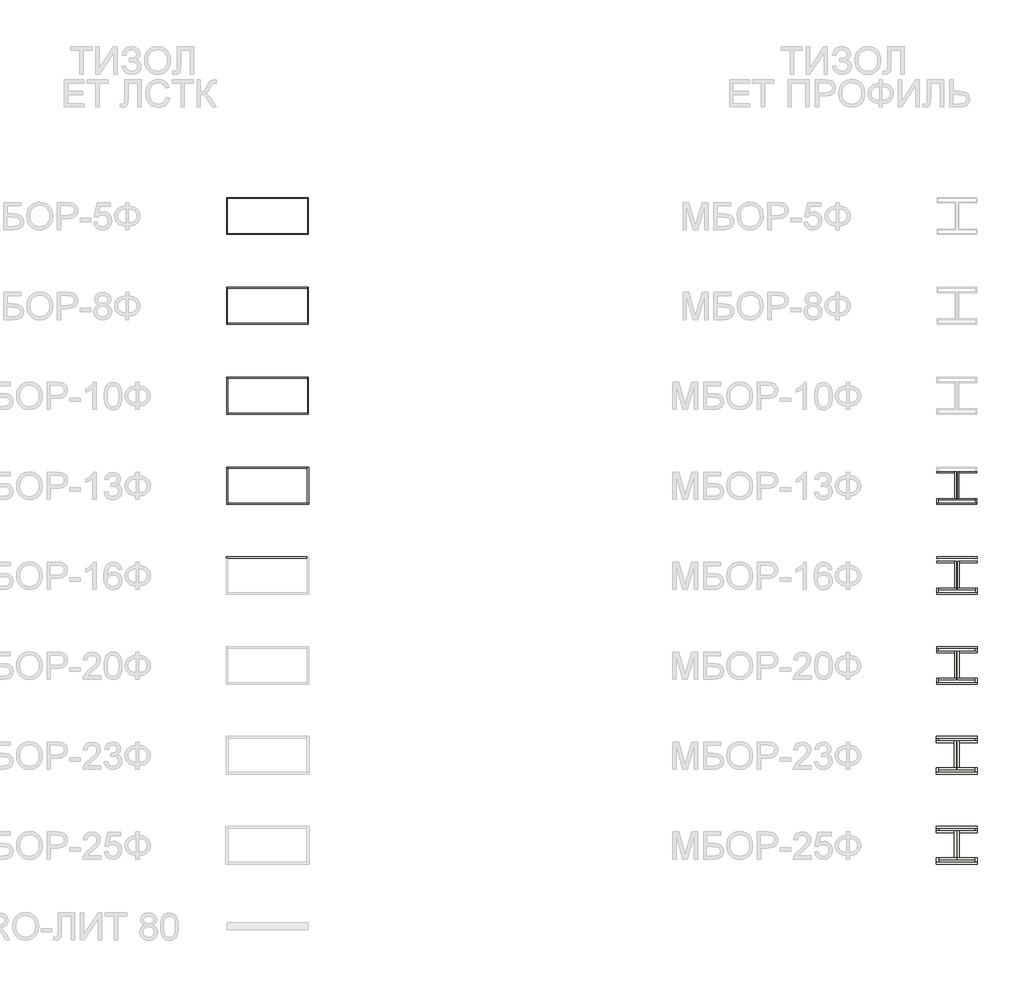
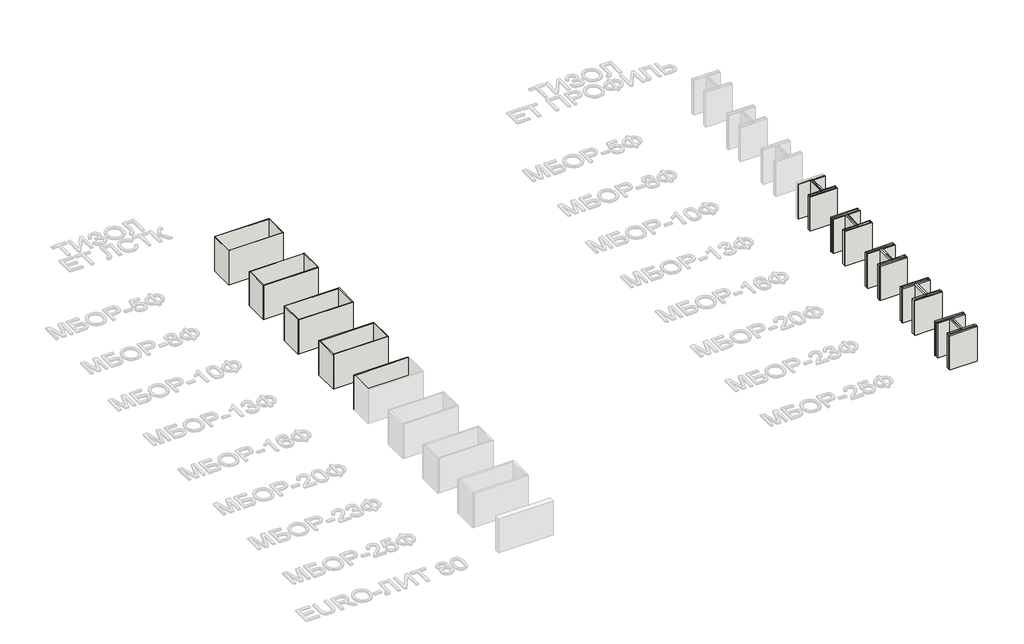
# One storey, part 2 of 35: 72 walls.
"""IFC4 building model written with IfcOpenShell, lengths in millimetres."""

from ifc_helpers import new_model, si_unit, origin, origin_with_axes, place, context, project, spatial, polyline, outline, extrude, faceted_brep, element, save

model = new_model("IFC4")

# Units and contexts
model_context = context("Model", 3, world=origin())
ifc_project = project(units=[si_unit("LENGTHUNIT", "METRE", prefix="MILLI")], contexts=[model_context])

# Site, building, storey
site = spatial("IfcSite", under=ifc_project)
building = spatial("IfcBuilding", under=site)
storey = spatial("IfcBuildingStorey", under=building, Name="Этаж 01", Elevation=0.0)

# Walls
placement = place(None, origin())
element("IfcWall", 1, ObjectType="Тизол МБОР-5Ф", at=placement, inside=storey, context=model_context, shape_type="Brep", body=[
    faceted_brep([(10548.3215627, -48960.0493767, 0.0), (10553.3215627, -48960.0493767, 0.0), (11448.3215627, -48960.0493767, 0.0), (11448.3215627, -48960.0493767, 600.0), (10553.3215627, -48960.0493767, 600.0), (10548.3215627, -48960.0493767, 600.0), (10548.3215627, -48955.0493767, 0.0), (10548.3215627, -48955.0493767, 600.0), (11448.3215627, -48955.0493767, 600.0), (11448.3215627, -48955.0493767, 0.0)], [[[0, 1, 2, 3, 4, 5]], [[6, 7, 8, 9]], [[2, 1, 0, 6, 9]], [[5, 4, 3, 8, 7]], [[0, 5, 7, 6]], [[3, 2, 9, 8]]]),
])
element("IfcWall", 2, ObjectType="Тизол МБОР-5Ф", at=placement, inside=storey, context=model_context, shape_type="Brep", body=[
    faceted_brep([(10553.3215627, -49360.0493767, 0.0), (10553.3215627, -49355.0493767, 0.0), (10553.3215627, -48960.0493767, 0.0), (10553.3215627, -48960.0493767, 600.0), (10553.3215627, -49355.0493767, 600.0), (10553.3215627, -49360.0493767, 600.0), (10548.3215627, -49360.0493767, 0.0), (10548.3215627, -49360.0493767, 600.0), (10548.3215627, -48960.0493767, 600.0), (10548.3215627, -48960.0493767, 0.0)], [[[0, 1, 2, 3, 4, 5]], [[6, 7, 8, 9]], [[2, 1, 0, 6, 9]], [[5, 4, 3, 8, 7]], [[0, 5, 7, 6]], [[3, 2, 9, 8]]]),
])
element("IfcWall", 3, ObjectType="Тизол МБОР-5Ф", at=placement, inside=storey, context=model_context, shape_type="Brep", body=[
    faceted_brep([(11453.3215627, -49355.0493767, 0.0), (11448.3215627, -49355.0493767, 0.0), (10553.3215627, -49355.0493767, 0.0), (10553.3215627, -49355.0493767, 600.0), (11448.3215627, -49355.0493767, 600.0), (11453.3215627, -49355.0493767, 600.0), (11453.3215627, -49360.0493767, 0.0), (11453.3215627, -49360.0493767, 600.0), (10553.3215627, -49360.0493767, 600.0), (10553.3215627, -49360.0493767, 0.0)], [[[0, 1, 2, 3, 4, 5]], [[6, 7, 8, 9]], [[2, 1, 0, 6, 9]], [[5, 4, 3, 8, 7]], [[0, 5, 7, 6]], [[3, 2, 9, 8]]]),
])
element("IfcWall", 4, ObjectType="Тизол МБОР-5Ф", at=placement, inside=storey, context=model_context, shape_type="Brep", body=[
    faceted_brep([(11448.3215627, -48955.0493767, 0.0), (11448.3215627, -48960.0493767, 0.0), (11448.3215627, -49355.0493767, 0.0), (11448.3215627, -49355.0493767, 600.0), (11448.3215627, -48960.0493767, 600.0), (11448.3215627, -48955.0493767, 600.0), (11453.3215627, -48955.0493767, 0.0), (11453.3215627, -48955.0493767, 600.0), (11453.3215627, -49355.0493767, 600.0), (11453.3215627, -49355.0493767, 0.0)], [[[0, 1, 2, 3, 4, 5]], [[6, 7, 8, 9]], [[2, 1, 0, 6, 9]], [[5, 4, 3, 8, 7]], [[0, 5, 7, 6]], [[3, 2, 9, 8]]]),
])
element("IfcWall", 5, ObjectType="Тизол МБОР-8Ф", at=placement, inside=storey, context=model_context, shape_type="Brep", body=[
    faceted_brep([(10546.8215627, -49961.5493767, 0.0), (10554.8215627, -49961.5493767, 0.0), (11446.8215627, -49961.5493767, 0.0), (11446.8215627, -49961.5493767, 600.0), (10554.8215627, -49961.5493767, 600.0), (10546.8215627, -49961.5493767, 600.0), (10546.8215627, -49953.5493767, 0.0), (10546.8215627, -49953.5493767, 600.0), (11446.8215627, -49953.5493767, 600.0), (11446.8215627, -49953.5493767, 0.0)], [[[0, 1, 2, 3, 4, 5]], [[6, 7, 8, 9]], [[2, 1, 0, 6, 9]], [[5, 4, 3, 8, 7]], [[0, 5, 7, 6]], [[3, 2, 9, 8]]]),
])
element("IfcWall", 6, ObjectType="Тизол МБОР-8Ф", at=placement, inside=storey, context=model_context, shape_type="Brep", body=[
    faceted_brep([(10554.8215627, -50361.5493767, 0.0), (10554.8215627, -50353.5493767, 0.0), (10554.8215627, -49961.5493767, 0.0), (10554.8215627, -49961.5493767, 600.0), (10554.8215627, -50353.5493767, 600.0), (10554.8215627, -50361.5493767, 600.0), (10546.8215627, -50361.5493767, 0.0), (10546.8215627, -50361.5493767, 600.0), (10546.8215627, -49961.5493767, 600.0), (10546.8215627, -49961.5493767, 0.0)], [[[0, 1, 2, 3, 4, 5]], [[6, 7, 8, 9]], [[2, 1, 0, 6, 9]], [[5, 4, 3, 8, 7]], [[0, 5, 7, 6]], [[3, 2, 9, 8]]]),
])
element("IfcWall", 7, ObjectType="Тизол МБОР-8Ф", at=placement, inside=storey, context=model_context, shape_type="Brep", body=[
    faceted_brep([(11454.8215627, -50353.5493767, 0.0), (11446.8215627, -50353.5493767, 0.0), (10554.8215627, -50353.5493767, 0.0), (10554.8215627, -50353.5493767, 600.0), (11446.8215627, -50353.5493767, 600.0), (11454.8215627, -50353.5493767, 600.0), (11454.8215627, -50361.5493767, 0.0), (11454.8215627, -50361.5493767, 600.0), (10554.8215627, -50361.5493767, 600.0), (10554.8215627, -50361.5493767, 0.0)], [[[0, 1, 2, 3, 4, 5]], [[6, 7, 8, 9]], [[2, 1, 0, 6, 9]], [[5, 4, 3, 8, 7]], [[0, 5, 7, 6]], [[3, 2, 9, 8]]]),
])
element("IfcWall", 8, ObjectType="Тизол МБОР-8Ф", at=placement, inside=storey, context=model_context, shape_type="Brep", body=[
    faceted_brep([(11446.8215627, -49953.5493767, 0.0), (11446.8215627, -49961.5493767, 0.0), (11446.8215627, -50353.5493767, 0.0), (11446.8215627, -50353.5493767, 600.0), (11446.8215627, -49961.5493767, 600.0), (11446.8215627, -49953.5493767, 600.0), (11454.8215627, -49953.5493767, 0.0), (11454.8215627, -49953.5493767, 600.0), (11454.8215627, -50353.5493767, 600.0), (11454.8215627, -50353.5493767, 0.0)], [[[0, 1, 2, 3, 4, 5]], [[6, 7, 8, 9]], [[2, 1, 0, 6, 9]], [[5, 4, 3, 8, 7]], [[0, 5, 7, 6]], [[3, 2, 9, 8]]]),
])
element("IfcWall", 9, ObjectType="Тизол МБОР-10Ф", at=placement, inside=storey, context=model_context, shape_type="Brep", body=[
    faceted_brep([(10545.8215627, -50962.5493767, 0.0), (10555.8215627, -50962.5493767, 0.0), (11445.8215627, -50962.5493767, 0.0), (11445.8215627, -50962.5493767, 600.0), (10555.8215627, -50962.5493767, 600.0), (10545.8215627, -50962.5493767, 600.0), (10545.8215627, -50952.5493767, 0.0), (10545.8215627, -50952.5493767, 600.0), (11445.8215627, -50952.5493767, 600.0), (11445.8215627, -50952.5493767, 0.0)], [[[0, 1, 2, 3, 4, 5]], [[6, 7, 8, 9]], [[2, 1, 0, 6, 9]], [[5, 4, 3, 8, 7]], [[0, 5, 7, 6]], [[3, 2, 9, 8]]]),
])
element("IfcWall", 10, ObjectType="Тизол МБОР-10Ф", at=placement, inside=storey, context=model_context, shape_type="Brep", body=[
    faceted_brep([(10555.8215627, -51362.5493767, 0.0), (10555.8215627, -51352.5493767, 0.0), (10555.8215627, -50962.5493767, 0.0), (10555.8215627, -50962.5493767, 600.0), (10555.8215627, -51352.5493767, 600.0), (10555.8215627, -51362.5493767, 600.0), (10545.8215627, -51362.5493767, 0.0), (10545.8215627, -51362.5493767, 600.0), (10545.8215627, -50962.5493767, 600.0), (10545.8215627, -50962.5493767, 0.0)], [[[0, 1, 2, 3, 4, 5]], [[6, 7, 8, 9]], [[2, 1, 0, 6, 9]], [[5, 4, 3, 8, 7]], [[0, 5, 7, 6]], [[3, 2, 9, 8]]]),
])
element("IfcWall", 11, ObjectType="Тизол МБОР-10Ф", at=placement, inside=storey, context=model_context, shape_type="Brep", body=[
    faceted_brep([(11455.8215627, -51352.5493767, 0.0), (11445.8215627, -51352.5493767, 0.0), (10555.8215627, -51352.5493767, 0.0), (10555.8215627, -51352.5493767, 600.0), (11445.8215627, -51352.5493767, 600.0), (11455.8215627, -51352.5493767, 600.0), (11455.8215627, -51362.5493767, 0.0), (11455.8215627, -51362.5493767, 600.0), (10555.8215627, -51362.5493767, 600.0), (10555.8215627, -51362.5493767, 0.0)], [[[0, 1, 2, 3, 4, 5]], [[6, 7, 8, 9]], [[2, 1, 0, 6, 9]], [[5, 4, 3, 8, 7]], [[0, 5, 7, 6]], [[3, 2, 9, 8]]]),
])
element("IfcWall", 12, ObjectType="Тизол МБОР-10Ф", at=placement, inside=storey, context=model_context, shape_type="Brep", body=[
    faceted_brep([(11445.8215627, -50952.5493767, 0.0), (11445.8215627, -50962.5493767, 0.0), (11445.8215627, -51352.5493767, 0.0), (11445.8215627, -51352.5493767, 600.0), (11445.8215627, -50962.5493767, 600.0), (11445.8215627, -50952.5493767, 600.0), (11455.8215627, -50952.5493767, 0.0), (11455.8215627, -50952.5493767, 600.0), (11455.8215627, -51352.5493767, 600.0), (11455.8215627, -51352.5493767, 0.0)], [[[0, 1, 2, 3, 4, 5]], [[6, 7, 8, 9]], [[2, 1, 0, 6, 9]], [[5, 4, 3, 8, 7]], [[0, 5, 7, 6]], [[3, 2, 9, 8]]]),
])
element("IfcWall", 13, ObjectType="Тизол МБОР-13Ф", at=placement, inside=storey, context=model_context, shape_type="Brep", body=[
    faceted_brep([(10544.3215627, -51964.0493767, 0.0), (10557.3215627, -51964.0493767, 0.0), (11444.3215627, -51964.0493767, 0.0), (11444.3215627, -51964.0493767, 600.0), (10557.3215627, -51964.0493767, 600.0), (10544.3215627, -51964.0493767, 600.0), (10544.3215627, -51951.0493767, 0.0), (10544.3215627, -51951.0493767, 600.0), (11444.3215627, -51951.0493767, 600.0), (11444.3215627, -51951.0493767, 0.0)], [[[0, 1, 2, 3, 4, 5]], [[6, 7, 8, 9]], [[2, 1, 0, 6, 9]], [[5, 4, 3, 8, 7]], [[0, 5, 7, 6]], [[3, 2, 9, 8]]]),
])
element("IfcWall", 14, ObjectType="Тизол МБОР-13Ф", at=placement, inside=storey, context=model_context, shape_type="Brep", body=[
    faceted_brep([(10557.3215627, -52364.0493767, 0.0), (10557.3215627, -52351.0493767, 0.0), (10557.3215627, -51964.0493767, 0.0), (10557.3215627, -51964.0493767, 600.0), (10557.3215627, -52351.0493767, 600.0), (10557.3215627, -52364.0493767, 600.0), (10544.3215627, -52364.0493767, 0.0), (10544.3215627, -52364.0493767, 600.0), (10544.3215627, -51964.0493767, 600.0), (10544.3215627, -51964.0493767, 0.0)], [[[0, 1, 2, 3, 4, 5]], [[6, 7, 8, 9]], [[2, 1, 0, 6, 9]], [[5, 4, 3, 8, 7]], [[0, 5, 7, 6]], [[3, 2, 9, 8]]]),
])
element("IfcWall", 15, ObjectType="Тизол МБОР-13Ф", at=placement, inside=storey, context=model_context, shape_type="Brep", body=[
    faceted_brep([(11457.3215627, -52351.0493767, 0.0), (11444.3215627, -52351.0493767, 0.0), (10557.3215627, -52351.0493767, 0.0), (10557.3215627, -52351.0493767, 600.0), (11444.3215627, -52351.0493767, 600.0), (11457.3215627, -52351.0493767, 600.0), (11457.3215627, -52364.0493767, 0.0), (11457.3215627, -52364.0493767, 600.0), (10557.3215627, -52364.0493767, 600.0), (10557.3215627, -52364.0493767, 0.0)], [[[0, 1, 2, 3, 4, 5]], [[6, 7, 8, 9]], [[2, 1, 0, 6, 9]], [[5, 4, 3, 8, 7]], [[0, 5, 7, 6]], [[3, 2, 9, 8]]]),
])
element("IfcWall", 16, ObjectType="Тизол МБОР-13Ф", at=placement, inside=storey, context=model_context, shape_type="Brep", body=[
    faceted_brep([(11444.3215627, -51951.0493767, 0.0), (11444.3215627, -51964.0493767, 0.0), (11444.3215627, -52351.0493767, 0.0), (11444.3215627, -52351.0493767, 600.0), (11444.3215627, -51964.0493767, 600.0), (11444.3215627, -51951.0493767, 600.0), (11457.3215627, -51951.0493767, 0.0), (11457.3215627, -51951.0493767, 600.0), (11457.3215627, -52351.0493767, 600.0), (11457.3215627, -52351.0493767, 0.0)], [[[0, 1, 2, 3, 4, 5]], [[6, 7, 8, 9]], [[2, 1, 0, 6, 9]], [[5, 4, 3, 8, 7]], [[0, 5, 7, 6]], [[3, 2, 9, 8]]]),
])
element("IfcWall", 17, ObjectType="Тизол МБОР-16Ф", at=placement, inside=storey, context=model_context, shape_type="Brep", body=[
    faceted_brep([(10542.8215627, -52965.5493767, 0.0), (10558.8215627, -52965.5493767, 0.0), (11442.8215627, -52965.5493767, 0.0), (11442.8215627, -52965.5493767, 600.0), (10558.8215627, -52965.5493767, 600.0), (10542.8215627, -52965.5493767, 600.0), (10542.8215627, -52949.5493767, 0.0), (10542.8215627, -52949.5493767, 600.0), (11442.8215627, -52949.5493767, 600.0), (11442.8215627, -52949.5493767, 0.0)], [[[0, 1, 2, 3, 4, 5]], [[6, 7, 8, 9]], [[2, 1, 0, 6, 9]], [[5, 4, 3, 8, 7]], [[0, 5, 7, 6]], [[3, 2, 9, 8]]]),
])
element("IfcWall", 18, ObjectType="Тизол МБОР-13Ф", at=placement, inside=storey, context=model_context, shape_type="Brep", body=[
    faceted_brep([(18889.8384325, -52351.0493767, 0.0), (18876.8384325, -52351.0493767, 0.0), (18457.3215627, -52351.0493767, 0.0), (18444.3215627, -52351.0493767, 0.0), (18444.3215627, -52351.0493767, 600.0), (18457.3215627, -52351.0493767, 600.0), (18876.8384325, -52351.0493767, 600.0), (18889.8384325, -52351.0493767, 600.0), (18889.8384325, -52364.0493767, 0.0), (18889.8384325, -52364.0493767, 600.0), (18444.3215627, -52364.0493767, 600.0), (18444.3215627, -52364.0493767, 0.0)], [[[0, 1, 2, 3, 4, 5, 6, 7]], [[8, 9, 10, 11]], [[3, 2, 1, 0, 8, 11]], [[7, 6, 5, 4, 10, 9]], [[4, 3, 11, 10]], [[0, 7, 9, 8]]]),
])
element("IfcWall", 19, ObjectType="Тизол МБОР-13Ф", at=placement, inside=storey, context=model_context, shape_type="Brep", body=[
    faceted_brep([(18457.3215627, -52351.0493767, 0.0), (18457.3215627, -52314.0493767, 0.0), (18457.3215627, -52301.0493767, 0.0), (18457.3215627, -52301.0493767, 600.0), (18457.3215627, -52314.0493767, 600.0), (18457.3215627, -52351.0493767, 600.0), (18444.3215627, -52351.0493767, 0.0), (18444.3215627, -52351.0493767, 600.0), (18444.3215627, -52301.0493767, 600.0), (18444.3215627, -52301.0493767, 0.0)], [[[0, 1, 2, 3, 4, 5]], [[6, 7, 8, 9]], [[2, 1, 0, 6, 9]], [[5, 4, 3, 8, 7]], [[0, 5, 7, 6]], [[3, 2, 9, 8]]]),
])
element("IfcWall", 20, ObjectType="Тизол МБОР-13Ф", at=placement, inside=storey, context=model_context, shape_type="Brep", body=[
    faceted_brep([(18457.3215627, -52314.0493767, 0.0), (18657.3215627, -52314.0493767, 0.0), (18657.3215627, -52314.0493767, 600.0), (18457.3215627, -52314.0493767, 600.0), (18457.3215627, -52301.0493767, 0.0), (18457.3215627, -52301.0493767, 600.0), (18644.3215627, -52301.0493767, 600.0), (18657.3215627, -52301.0493767, 600.0), (18657.3215627, -52301.0493767, 0.0), (18644.3215627, -52301.0493767, 0.0)], [[[0, 1, 2, 3]], [[4, 5, 6, 7, 8, 9]], [[1, 0, 4, 9, 8]], [[3, 2, 7, 6, 5]], [[0, 3, 5, 4]], [[2, 1, 8, 7]]]),
])
element("IfcWall", 21, ObjectType="Тизол МБОР-13Ф", at=placement, inside=storey, context=model_context, shape_type="Brep", body=[
    faceted_brep([(18657.3215627, -52301.0493767, 0.0), (18657.3215627, -52001.0493767, 0.0), (18657.3215627, -52001.0493767, 600.0), (18657.3215627, -52301.0493767, 600.0), (18644.3215627, -52301.0493767, 0.0), (18644.3215627, -52301.0493767, 600.0), (18644.3215627, -52014.0493767, 600.0), (18644.3215627, -52001.0493767, 600.0), (18644.3215627, -52001.0493767, 0.0), (18644.3215627, -52014.0493767, 0.0)], [[[0, 1, 2, 3]], [[4, 5, 6, 7, 8, 9]], [[1, 0, 4, 9, 8]], [[3, 2, 7, 6, 5]], [[0, 3, 5, 4]], [[2, 1, 8, 7]]]),
])
element("IfcWall", 22, ObjectType="Тизол МБОР-13Ф", at=placement, inside=storey, context=model_context, shape_type="Brep", body=[
    faceted_brep([(18644.3215627, -52001.0493767, 0.0), (18457.3215627, -52001.0493767, 0.0), (18444.3215627, -52001.0493767, 0.0), (18444.3215627, -52001.0493767, 600.0), (18457.3215627, -52001.0493767, 600.0), (18644.3215627, -52001.0493767, 600.0), (18644.3215627, -52014.0493767, 0.0), (18644.3215627, -52014.0493767, 600.0), (18444.3215627, -52014.0493767, 600.0), (18444.3215627, -52014.0493767, 0.0)], [[[0, 1, 2, 3, 4, 5]], [[6, 7, 8, 9]], [[2, 1, 0, 6, 9]], [[5, 4, 3, 8, 7]], [[0, 5, 7, 6]], [[3, 2, 9, 8]]]),
])
element("IfcWall", 23, ObjectType="Тизол МБОР-13Ф", at=placement, inside=storey, context=model_context, shape_type="Brep", body=[
    faceted_brep([(18889.8384325, -52351.0493767, 0.0), (18889.8384325, -52301.0493767, 0.0), (18889.8384325, -52301.0493767, 600.0), (18889.8384325, -52351.0493767, 600.0), (18876.8384325, -52351.0493767, 0.0), (18876.8384325, -52351.0493767, 600.0), (18876.8384325, -52314.0493767, 600.0), (18876.8384325, -52301.0493767, 600.0), (18876.8384325, -52301.0493767, 0.0), (18876.8384325, -52314.0493767, 0.0)], [[[0, 1, 2, 3]], [[4, 5, 6, 7, 8, 9]], [[1, 0, 4, 9, 8]], [[3, 2, 7, 6, 5]], [[2, 1, 8, 7]], [[0, 3, 5, 4]]]),
])
element("IfcWall", 24, ObjectType="Тизол МБОР-13Ф", at=placement, inside=storey, context=model_context, shape_type="Brep", body=[
    faceted_brep([(18876.8384325, -52301.0493767, 0.0), (18689.8384325, -52301.0493767, 0.0), (18676.8384325, -52301.0493767, 0.0), (18676.8384325, -52301.0493767, 600.0), (18689.8384325, -52301.0493767, 600.0), (18876.8384325, -52301.0493767, 600.0), (18876.8384325, -52314.0493767, 0.0), (18876.8384325, -52314.0493767, 600.0), (18676.8384325, -52314.0493767, 600.0), (18676.8384325, -52314.0493767, 0.0)], [[[0, 1, 2, 3, 4, 5]], [[6, 7, 8, 9]], [[2, 1, 0, 6, 9]], [[5, 4, 3, 8, 7]], [[0, 5, 7, 6]], [[3, 2, 9, 8]]]),
])
element("IfcWall", 25, ObjectType="Тизол МБОР-13Ф", at=placement, inside=storey, context=model_context, shape_type="Brep", body=[
    faceted_brep([(18689.8384325, -52301.0493767, 0.0), (18689.8384325, -52014.0493767, 0.0), (18689.8384325, -52001.0493767, 0.0), (18689.8384325, -52001.0493767, 600.0), (18689.8384325, -52014.0493767, 600.0), (18689.8384325, -52301.0493767, 600.0), (18676.8384325, -52301.0493767, 0.0), (18676.8384325, -52301.0493767, 600.0), (18676.8384325, -52001.0493767, 600.0), (18676.8384325, -52001.0493767, 0.0)], [[[0, 1, 2, 3, 4, 5]], [[6, 7, 8, 9]], [[2, 1, 0, 6, 9]], [[5, 4, 3, 8, 7]], [[0, 5, 7, 6]], [[3, 2, 9, 8]]]),
])
element("IfcWall", 26, ObjectType="Тизол МБОР-13Ф", at=placement, inside=storey, context=model_context, shape_type="Brep", body=[
    faceted_brep([(18689.8384325, -52014.0493767, 0.0), (18889.8384325, -52014.0493767, 0.0), (18889.8384325, -52014.0493767, 600.0), (18689.8384325, -52014.0493767, 600.0), (18689.8384325, -52001.0493767, 0.0), (18689.8384325, -52001.0493767, 600.0), (18876.8384325, -52001.0493767, 600.0), (18889.8384325, -52001.0493767, 600.0), (18889.8384325, -52001.0493767, 0.0), (18876.8384325, -52001.0493767, 0.0)], [[[0, 1, 2, 3]], [[4, 5, 6, 7, 8, 9]], [[1, 0, 4, 9, 8]], [[3, 2, 7, 6, 5]], [[0, 3, 5, 4]], [[2, 1, 8, 7]]]),
])
element("IfcWall", 27, ObjectType="Тизол МБОР-16Ф", at=placement, inside=storey, context=model_context, shape_type="Brep", body=[
    faceted_brep([(18442.8215627, -52965.5493767, 0.0), (18458.8215627, -52965.5493767, 0.0), (18875.3384325, -52965.5493767, 0.0), (18891.3384325, -52965.5493767, 0.0), (18891.3384325, -52965.5493767, 600.0), (18875.3384325, -52965.5493767, 600.0), (18458.8215627, -52965.5493767, 600.0), (18442.8215627, -52965.5493767, 600.0), (18442.8215627, -52949.5493767, 0.0), (18442.8215627, -52949.5493767, 600.0), (18891.3384325, -52949.5493767, 600.0), (18891.3384325, -52949.5493767, 0.0)], [[[0, 1, 2, 3, 4, 5, 6, 7]], [[8, 9, 10, 11]], [[3, 2, 1, 0, 8, 11]], [[7, 6, 5, 4, 10, 9]], [[0, 7, 9, 8]], [[4, 3, 11, 10]]]),
])
element("IfcWall", 28, ObjectType="Тизол МБОР-16Ф", at=placement, inside=storey, context=model_context, shape_type="Brep", body=[
    faceted_brep([(18891.3384325, -53349.5493767, 0.0), (18875.3384325, -53349.5493767, 0.0), (18458.8215627, -53349.5493767, 0.0), (18442.8215627, -53349.5493767, 0.0), (18442.8215627, -53349.5493767, 600.0), (18458.8215627, -53349.5493767, 600.0), (18875.3384325, -53349.5493767, 600.0), (18891.3384325, -53349.5493767, 600.0), (18891.3384325, -53365.5493767, 0.0), (18891.3384325, -53365.5493767, 600.0), (18442.8215627, -53365.5493767, 600.0), (18442.8215627, -53365.5493767, 0.0)], [[[0, 1, 2, 3, 4, 5, 6, 7]], [[8, 9, 10, 11]], [[3, 2, 1, 0, 8, 11]], [[7, 6, 5, 4, 10, 9]], [[4, 3, 11, 10]], [[0, 7, 9, 8]]]),
])
element("IfcWall", 29, ObjectType="Тизол МБОР-16Ф", at=placement, inside=storey, context=model_context, shape_type="Brep", body=[
    faceted_brep([(18458.8215627, -53349.5493767, 0.0), (18458.8215627, -53315.5493767, 0.0), (18458.8215627, -53299.5493767, 0.0), (18458.8215627, -53299.5493767, 600.0), (18458.8215627, -53315.5493767, 600.0), (18458.8215627, -53349.5493767, 600.0), (18442.8215627, -53349.5493767, 0.0), (18442.8215627, -53349.5493767, 600.0), (18442.8215627, -53299.5493767, 600.0), (18442.8215627, -53299.5493767, 0.0)], [[[0, 1, 2, 3, 4, 5]], [[6, 7, 8, 9]], [[2, 1, 0, 6, 9]], [[5, 4, 3, 8, 7]], [[0, 5, 7, 6]], [[3, 2, 9, 8]]]),
])
element("IfcWall", 30, ObjectType="Тизол МБОР-16Ф", at=placement, inside=storey, context=model_context, shape_type="Brep", body=[
    faceted_brep([(18458.8215627, -53315.5493767, 0.0), (18658.8215627, -53315.5493767, 0.0), (18658.8215627, -53315.5493767, 600.0), (18458.8215627, -53315.5493767, 600.0), (18458.8215627, -53299.5493767, 0.0), (18458.8215627, -53299.5493767, 600.0), (18642.8215627, -53299.5493767, 600.0), (18658.8215627, -53299.5493767, 600.0), (18658.8215627, -53299.5493767, 0.0), (18642.8215627, -53299.5493767, 0.0)], [[[0, 1, 2, 3]], [[4, 5, 6, 7, 8, 9]], [[1, 0, 4, 9, 8]], [[3, 2, 7, 6, 5]], [[0, 3, 5, 4]], [[2, 1, 8, 7]]]),
])
element("IfcWall", 31, ObjectType="Тизол МБОР-16Ф", at=placement, inside=storey, context=model_context, shape_type="Brep", body=[
    faceted_brep([(18658.8215627, -53299.5493767, 0.0), (18658.8215627, -52999.5493767, 0.0), (18658.8215627, -52999.5493767, 600.0), (18658.8215627, -53299.5493767, 600.0), (18642.8215627, -53299.5493767, 0.0), (18642.8215627, -53299.5493767, 600.0), (18642.8215627, -53015.5493767, 600.0), (18642.8215627, -52999.5493767, 600.0), (18642.8215627, -52999.5493767, 0.0), (18642.8215627, -53015.5493767, 0.0)], [[[0, 1, 2, 3]], [[4, 5, 6, 7, 8, 9]], [[1, 0, 4, 9, 8]], [[3, 2, 7, 6, 5]], [[0, 3, 5, 4]], [[2, 1, 8, 7]]]),
])
element("IfcWall", 32, ObjectType="Тизол МБОР-16Ф", at=placement, inside=storey, context=model_context, shape_type="Brep", body=[
    faceted_brep([(18642.8215627, -52999.5493767, 0.0), (18458.8215627, -52999.5493767, 0.0), (18442.8215627, -52999.5493767, 0.0), (18442.8215627, -52999.5493767, 600.0), (18458.8215627, -52999.5493767, 600.0), (18642.8215627, -52999.5493767, 600.0), (18642.8215627, -53015.5493767, 0.0), (18642.8215627, -53015.5493767, 600.0), (18442.8215627, -53015.5493767, 600.0), (18442.8215627, -53015.5493767, 0.0)], [[[0, 1, 2, 3, 4, 5]], [[6, 7, 8, 9]], [[2, 1, 0, 6, 9]], [[5, 4, 3, 8, 7]], [[0, 5, 7, 6]], [[3, 2, 9, 8]]]),
])
element("IfcWall", 33, ObjectType="Тизол МБОР-16Ф", at=placement, inside=storey, context=model_context, shape_type="Brep", body=[
    faceted_brep([(18891.3384325, -53349.5493767, 0.0), (18891.3384325, -53299.5493767, 0.0), (18891.3384325, -53299.5493767, 600.0), (18891.3384325, -53349.5493767, 600.0), (18875.3384325, -53349.5493767, 0.0), (18875.3384325, -53349.5493767, 600.0), (18875.3384325, -53315.5493767, 600.0), (18875.3384325, -53299.5493767, 600.0), (18875.3384325, -53299.5493767, 0.0), (18875.3384325, -53315.5493767, 0.0)], [[[0, 1, 2, 3]], [[4, 5, 6, 7, 8, 9]], [[1, 0, 4, 9, 8]], [[3, 2, 7, 6, 5]], [[2, 1, 8, 7]], [[0, 3, 5, 4]]]),
])
element("IfcWall", 34, ObjectType="Тизол МБОР-16Ф", at=placement, inside=storey, context=model_context, shape_type="Brep", body=[
    faceted_brep([(18875.3384325, -53299.5493767, 0.0), (18691.3384325, -53299.5493767, 0.0), (18675.3384325, -53299.5493767, 0.0), (18675.3384325, -53299.5493767, 600.0), (18691.3384325, -53299.5493767, 600.0), (18875.3384325, -53299.5493767, 600.0), (18875.3384325, -53315.5493767, 0.0), (18875.3384325, -53315.5493767, 600.0), (18675.3384325, -53315.5493767, 600.0), (18675.3384325, -53315.5493767, 0.0)], [[[0, 1, 2, 3, 4, 5]], [[6, 7, 8, 9]], [[2, 1, 0, 6, 9]], [[5, 4, 3, 8, 7]], [[0, 5, 7, 6]], [[3, 2, 9, 8]]]),
])
element("IfcWall", 35, ObjectType="Тизол МБОР-16Ф", at=placement, inside=storey, context=model_context, shape_type="Brep", body=[
    faceted_brep([(18691.3384325, -53299.5493767, 0.0), (18691.3384325, -53015.5493767, 0.0), (18691.3384325, -52999.5493767, 0.0), (18691.3384325, -52999.5493767, 600.0), (18691.3384325, -53015.5493767, 600.0), (18691.3384325, -53299.5493767, 600.0), (18675.3384325, -53299.5493767, 0.0), (18675.3384325, -53299.5493767, 600.0), (18675.3384325, -52999.5493767, 600.0), (18675.3384325, -52999.5493767, 0.0)], [[[0, 1, 2, 3, 4, 5]], [[6, 7, 8, 9]], [[2, 1, 0, 6, 9]], [[5, 4, 3, 8, 7]], [[0, 5, 7, 6]], [[3, 2, 9, 8]]]),
])
element("IfcWall", 36, ObjectType="Тизол МБОР-16Ф", at=placement, inside=storey, context=model_context, shape_type="Brep", body=[
    faceted_brep([(18691.3384325, -53015.5493767, 0.0), (18891.3384325, -53015.5493767, 0.0), (18891.3384325, -53015.5493767, 600.0), (18691.3384325, -53015.5493767, 600.0), (18691.3384325, -52999.5493767, 0.0), (18691.3384325, -52999.5493767, 600.0), (18875.3384325, -52999.5493767, 600.0), (18891.3384325, -52999.5493767, 600.0), (18891.3384325, -52999.5493767, 0.0), (18875.3384325, -52999.5493767, 0.0)], [[[0, 1, 2, 3]], [[4, 5, 6, 7, 8, 9]], [[1, 0, 4, 9, 8]], [[3, 2, 7, 6, 5]], [[0, 3, 5, 4]], [[2, 1, 8, 7]]]),
])
element("IfcWall", 37, ObjectType="Тизол МБОР-20Ф", at=placement, inside=storey, context=model_context, shape_type="Brep", body=[
    faceted_brep([(18440.8215627, -53967.5493767, 0.0), (18460.8215627, -53967.5493767, 0.0), (18873.3384325, -53967.5493767, 0.0), (18893.3384325, -53967.5493767, 0.0), (18893.3384325, -53967.5493767, 600.0), (18873.3384325, -53967.5493767, 600.0), (18460.8215627, -53967.5493767, 600.0), (18440.8215627, -53967.5493767, 600.0), (18440.8215627, -53947.5493767, 0.0), (18440.8215627, -53947.5493767, 600.0), (18893.3384325, -53947.5493767, 600.0), (18893.3384325, -53947.5493767, 0.0)], [[[0, 1, 2, 3, 4, 5, 6, 7]], [[8, 9, 10, 11]], [[3, 2, 1, 0, 8, 11]], [[7, 6, 5, 4, 10, 9]], [[0, 7, 9, 8]], [[4, 3, 11, 10]]]),
])
element("IfcWall", 38, ObjectType="Тизол МБОР-20Ф", at=placement, inside=storey, context=model_context, shape_type="Brep", body=[
    faceted_brep([(18893.3384325, -54347.5493767, 0.0), (18873.3384325, -54347.5493767, 0.0), (18460.8215627, -54347.5493767, 0.0), (18440.8215627, -54347.5493767, 0.0), (18440.8215627, -54347.5493767, 600.0), (18460.8215627, -54347.5493767, 600.0), (18873.3384325, -54347.5493767, 600.0), (18893.3384325, -54347.5493767, 600.0), (18893.3384325, -54367.5493767, 0.0), (18893.3384325, -54367.5493767, 600.0), (18440.8215627, -54367.5493767, 600.0), (18440.8215627, -54367.5493767, 0.0)], [[[0, 1, 2, 3, 4, 5, 6, 7]], [[8, 9, 10, 11]], [[3, 2, 1, 0, 8, 11]], [[7, 6, 5, 4, 10, 9]], [[4, 3, 11, 10]], [[0, 7, 9, 8]]]),
])
element("IfcWall", 39, ObjectType="Тизол МБОР-20Ф", at=placement, inside=storey, context=model_context, shape_type="Brep", body=[
    faceted_brep([(18460.8215627, -54347.5493767, 0.0), (18460.8215627, -54317.5493767, 0.0), (18460.8215627, -54297.5493767, 0.0), (18460.8215627, -54297.5493767, 600.0), (18460.8215627, -54317.5493767, 600.0), (18460.8215627, -54347.5493767, 600.0), (18440.8215627, -54347.5493767, 0.0), (18440.8215627, -54347.5493767, 600.0), (18440.8215627, -54297.5493767, 600.0), (18440.8215627, -54297.5493767, 0.0)], [[[0, 1, 2, 3, 4, 5]], [[6, 7, 8, 9]], [[2, 1, 0, 6, 9]], [[5, 4, 3, 8, 7]], [[0, 5, 7, 6]], [[3, 2, 9, 8]]]),
])
element("IfcWall", 40, ObjectType="Тизол МБОР-20Ф", at=placement, inside=storey, context=model_context, shape_type="Brep", body=[
    faceted_brep([(18460.8215627, -54317.5493767, 0.0), (18660.8215627, -54317.5493767, 0.0), (18660.8215627, -54317.5493767, 600.0), (18460.8215627, -54317.5493767, 600.0), (18460.8215627, -54297.5493767, 0.0), (18460.8215627, -54297.5493767, 600.0), (18640.8215627, -54297.5493767, 600.0), (18660.8215627, -54297.5493767, 600.0), (18660.8215627, -54297.5493767, 0.0), (18640.8215627, -54297.5493767, 0.0)], [[[0, 1, 2, 3]], [[4, 5, 6, 7, 8, 9]], [[1, 0, 4, 9, 8]], [[3, 2, 7, 6, 5]], [[0, 3, 5, 4]], [[2, 1, 8, 7]]]),
])
element("IfcWall", 41, ObjectType="Тизол МБОР-20Ф", at=placement, inside=storey, context=model_context, shape_type="Brep", body=[
    faceted_brep([(18660.8215627, -54297.5493767, 0.0), (18660.8215627, -53997.5493767, 0.0), (18660.8215627, -53997.5493767, 600.0), (18660.8215627, -54297.5493767, 600.0), (18640.8215627, -54297.5493767, 0.0), (18640.8215627, -54297.5493767, 600.0), (18640.8215627, -54017.5493767, 600.0), (18640.8215627, -53997.5493767, 600.0), (18640.8215627, -53997.5493767, 0.0), (18640.8215627, -54017.5493767, 0.0)], [[[0, 1, 2, 3]], [[4, 5, 6, 7, 8, 9]], [[1, 0, 4, 9, 8]], [[3, 2, 7, 6, 5]], [[0, 3, 5, 4]], [[2, 1, 8, 7]]]),
])
element("IfcWall", 42, ObjectType="Тизол МБОР-20Ф", at=placement, inside=storey, context=model_context, shape_type="Brep", body=[
    faceted_brep([(18640.8215627, -53997.5493767, 0.0), (18460.8215627, -53997.5493767, 0.0), (18440.8215627, -53997.5493767, 0.0), (18440.8215627, -53997.5493767, 600.0), (18460.8215627, -53997.5493767, 600.0), (18640.8215627, -53997.5493767, 600.0), (18640.8215627, -54017.5493767, 0.0), (18640.8215627, -54017.5493767, 600.0), (18440.8215627, -54017.5493767, 600.0), (18440.8215627, -54017.5493767, 0.0)], [[[0, 1, 2, 3, 4, 5]], [[6, 7, 8, 9]], [[2, 1, 0, 6, 9]], [[5, 4, 3, 8, 7]], [[0, 5, 7, 6]], [[3, 2, 9, 8]]]),
])
element("IfcWall", 43, ObjectType="Тизол МБОР-20Ф", at=placement, inside=storey, context=model_context, shape_type="SweptSolid", body=[
    extrude(outline(polyline([(18460.8215627, -53967.5493767), (18460.8215627, -53997.5493767), (18440.8215627, -53997.5493767), (18440.8215627, -53967.5493767), (18460.8215627, -53967.5493767)])), origin_with_axes(), (0.0, 0.0, 1.0), 600.0),
])
element("IfcWall", 44, ObjectType="Тизол МБОР-20Ф", at=placement, inside=storey, context=model_context, shape_type="Brep", body=[
    faceted_brep([(18893.3384325, -54347.5493767, 0.0), (18893.3384325, -54297.5493767, 0.0), (18893.3384325, -54297.5493767, 600.0), (18893.3384325, -54347.5493767, 600.0), (18873.3384325, -54347.5493767, 0.0), (18873.3384325, -54347.5493767, 600.0), (18873.3384325, -54317.5493767, 600.0), (18873.3384325, -54297.5493767, 600.0), (18873.3384325, -54297.5493767, 0.0), (18873.3384325, -54317.5493767, 0.0)], [[[0, 1, 2, 3]], [[4, 5, 6, 7, 8, 9]], [[1, 0, 4, 9, 8]], [[3, 2, 7, 6, 5]], [[2, 1, 8, 7]], [[0, 3, 5, 4]]]),
])
element("IfcWall", 45, ObjectType="Тизол МБОР-20Ф", at=placement, inside=storey, context=model_context, shape_type="Brep", body=[
    faceted_brep([(18873.3384325, -54297.5493767, 0.0), (18693.3384325, -54297.5493767, 0.0), (18673.3384325, -54297.5493767, 0.0), (18673.3384325, -54297.5493767, 600.0), (18693.3384325, -54297.5493767, 600.0), (18873.3384325, -54297.5493767, 600.0), (18873.3384325, -54317.5493767, 0.0), (18873.3384325, -54317.5493767, 600.0), (18673.3384325, -54317.5493767, 600.0), (18673.3384325, -54317.5493767, 0.0)], [[[0, 1, 2, 3, 4, 5]], [[6, 7, 8, 9]], [[2, 1, 0, 6, 9]], [[5, 4, 3, 8, 7]], [[0, 5, 7, 6]], [[3, 2, 9, 8]]]),
])
element("IfcWall", 46, ObjectType="Тизол МБОР-20Ф", at=placement, inside=storey, context=model_context, shape_type="Brep", body=[
    faceted_brep([(18693.3384325, -54297.5493767, 0.0), (18693.3384325, -54017.5493767, 0.0), (18693.3384325, -53997.5493767, 0.0), (18693.3384325, -53997.5493767, 600.0), (18693.3384325, -54017.5493767, 600.0), (18693.3384325, -54297.5493767, 600.0), (18673.3384325, -54297.5493767, 0.0), (18673.3384325, -54297.5493767, 600.0), (18673.3384325, -53997.5493767, 600.0), (18673.3384325, -53997.5493767, 0.0)], [[[0, 1, 2, 3, 4, 5]], [[6, 7, 8, 9]], [[2, 1, 0, 6, 9]], [[5, 4, 3, 8, 7]], [[0, 5, 7, 6]], [[3, 2, 9, 8]]]),
])
element("IfcWall", 47, ObjectType="Тизол МБОР-20Ф", at=placement, inside=storey, context=model_context, shape_type="Brep", body=[
    faceted_brep([(18693.3384325, -54017.5493767, 0.0), (18893.3384325, -54017.5493767, 0.0), (18893.3384325, -54017.5493767, 600.0), (18693.3384325, -54017.5493767, 600.0), (18693.3384325, -53997.5493767, 0.0), (18693.3384325, -53997.5493767, 600.0), (18873.3384325, -53997.5493767, 600.0), (18893.3384325, -53997.5493767, 600.0), (18893.3384325, -53997.5493767, 0.0), (18873.3384325, -53997.5493767, 0.0)], [[[0, 1, 2, 3]], [[4, 5, 6, 7, 8, 9]], [[1, 0, 4, 9, 8]], [[3, 2, 7, 6, 5]], [[0, 3, 5, 4]], [[2, 1, 8, 7]]]),
])
element("IfcWall", 48, ObjectType="Тизол МБОР-20Ф", at=placement, inside=storey, context=model_context, shape_type="SweptSolid", body=[
    extrude(outline(polyline([(18893.3384325, -53967.5493767), (18893.3384325, -53997.5493767), (18873.3384325, -53997.5493767), (18873.3384325, -53967.5493767), (18893.3384325, -53967.5493767)])), origin_with_axes(), (0.0, 0.0, 1.0), 600.0),
])
element("IfcWall", 49, ObjectType="Тизол МБОР-23Ф", at=placement, inside=storey, context=model_context, shape_type="Brep", body=[
    faceted_brep([(18439.3215627, -54969.0493767, 0.0), (18462.3215627, -54969.0493767, 0.0), (18871.8384325, -54969.0493767, 0.0), (18894.8384325, -54969.0493767, 0.0), (18894.8384325, -54969.0493767, 600.0), (18871.8384325, -54969.0493767, 600.0), (18462.3215627, -54969.0493767, 600.0), (18439.3215627, -54969.0493767, 600.0), (18439.3215627, -54946.0493767, 0.0), (18439.3215627, -54946.0493767, 600.0), (18894.8384325, -54946.0493767, 600.0), (18894.8384325, -54946.0493767, 0.0)], [[[0, 1, 2, 3, 4, 5, 6, 7]], [[8, 9, 10, 11]], [[3, 2, 1, 0, 8, 11]], [[7, 6, 5, 4, 10, 9]], [[0, 7, 9, 8]], [[4, 3, 11, 10]]]),
])
element("IfcWall", 50, ObjectType="Тизол МБОР-23Ф", at=placement, inside=storey, context=model_context, shape_type="Brep", body=[
    faceted_brep([(18894.8384325, -55346.0493767, 0.0), (18871.8384325, -55346.0493767, 0.0), (18462.3215627, -55346.0493767, 0.0), (18439.3215627, -55346.0493767, 0.0), (18439.3215627, -55346.0493767, 600.0), (18462.3215627, -55346.0493767, 600.0), (18871.8384325, -55346.0493767, 600.0), (18894.8384325, -55346.0493767, 600.0), (18894.8384325, -55369.0493767, 0.0), (18894.8384325, -55369.0493767, 600.0), (18439.3215627, -55369.0493767, 600.0), (18439.3215627, -55369.0493767, 0.0)], [[[0, 1, 2, 3, 4, 5, 6, 7]], [[8, 9, 10, 11]], [[3, 2, 1, 0, 8, 11]], [[7, 6, 5, 4, 10, 9]], [[4, 3, 11, 10]], [[0, 7, 9, 8]]]),
])
element("IfcWall", 51, ObjectType="Тизол МБОР-23Ф", at=placement, inside=storey, context=model_context, shape_type="Brep", body=[
    faceted_brep([(18462.3215627, -55346.0493767, 0.0), (18462.3215627, -55319.0493767, 0.0), (18462.3215627, -55296.0493767, 0.0), (18462.3215627, -55296.0493767, 600.0), (18462.3215627, -55319.0493767, 600.0), (18462.3215627, -55346.0493767, 600.0), (18439.3215627, -55346.0493767, 0.0), (18439.3215627, -55346.0493767, 600.0), (18439.3215627, -55296.0493767, 600.0), (18439.3215627, -55296.0493767, 0.0)], [[[0, 1, 2, 3, 4, 5]], [[6, 7, 8, 9]], [[2, 1, 0, 6, 9]], [[5, 4, 3, 8, 7]], [[0, 5, 7, 6]], [[3, 2, 9, 8]]]),
])
element("IfcWall", 52, ObjectType="Тизол МБОР-23Ф", at=placement, inside=storey, context=model_context, shape_type="Brep", body=[
    faceted_brep([(18462.3215627, -55319.0493767, 0.0), (18662.3215627, -55319.0493767, 0.0), (18662.3215627, -55319.0493767, 600.0), (18462.3215627, -55319.0493767, 600.0), (18462.3215627, -55296.0493767, 0.0), (18462.3215627, -55296.0493767, 600.0), (18639.3215627, -55296.0493767, 600.0), (18662.3215627, -55296.0493767, 600.0), (18662.3215627, -55296.0493767, 0.0), (18639.3215627, -55296.0493767, 0.0)], [[[0, 1, 2, 3]], [[4, 5, 6, 7, 8, 9]], [[1, 0, 4, 9, 8]], [[3, 2, 7, 6, 5]], [[0, 3, 5, 4]], [[2, 1, 8, 7]]]),
])
element("IfcWall", 53, ObjectType="Тизол МБОР-23Ф", at=placement, inside=storey, context=model_context, shape_type="Brep", body=[
    faceted_brep([(18662.3215627, -55296.0493767, 0.0), (18662.3215627, -54996.0493767, 0.0), (18662.3215627, -54996.0493767, 600.0), (18662.3215627, -55296.0493767, 600.0), (18639.3215627, -55296.0493767, 0.0), (18639.3215627, -55296.0493767, 600.0), (18639.3215627, -55019.0493767, 600.0), (18639.3215627, -54996.0493767, 600.0), (18639.3215627, -54996.0493767, 0.0), (18639.3215627, -55019.0493767, 0.0)], [[[0, 1, 2, 3]], [[4, 5, 6, 7, 8, 9]], [[1, 0, 4, 9, 8]], [[3, 2, 7, 6, 5]], [[0, 3, 5, 4]], [[2, 1, 8, 7]]]),
])
element("IfcWall", 54, ObjectType="Тизол МБОР-23Ф", at=placement, inside=storey, context=model_context, shape_type="Brep", body=[
    faceted_brep([(18639.3215627, -54996.0493767, 0.0), (18462.3215627, -54996.0493767, 0.0), (18439.3215627, -54996.0493767, 0.0), (18439.3215627, -54996.0493767, 600.0), (18462.3215627, -54996.0493767, 600.0), (18639.3215627, -54996.0493767, 600.0), (18639.3215627, -55019.0493767, 0.0), (18639.3215627, -55019.0493767, 600.0), (18439.3215627, -55019.0493767, 600.0), (18439.3215627, -55019.0493767, 0.0)], [[[0, 1, 2, 3, 4, 5]], [[6, 7, 8, 9]], [[2, 1, 0, 6, 9]], [[5, 4, 3, 8, 7]], [[0, 5, 7, 6]], [[3, 2, 9, 8]]]),
])
element("IfcWall", 55, ObjectType="Тизол МБОР-23Ф", at=placement, inside=storey, context=model_context, shape_type="SweptSolid", body=[
    extrude(outline(polyline([(18462.3215627, -54969.0493767), (18462.3215627, -54996.0493767), (18439.3215627, -54996.0493767), (18439.3215627, -54969.0493767), (18462.3215627, -54969.0493767)])), origin_with_axes(), (0.0, 0.0, 1.0), 600.0),
])
element("IfcWall", 56, ObjectType="Тизол МБОР-23Ф", at=placement, inside=storey, context=model_context, shape_type="Brep", body=[
    faceted_brep([(18894.8384325, -55346.0493767, 0.0), (18894.8384325, -55296.0493767, 0.0), (18894.8384325, -55296.0493767, 600.0), (18894.8384325, -55346.0493767, 600.0), (18871.8384325, -55346.0493767, 0.0), (18871.8384325, -55346.0493767, 600.0), (18871.8384325, -55319.0493767, 600.0), (18871.8384325, -55296.0493767, 600.0), (18871.8384325, -55296.0493767, 0.0), (18871.8384325, -55319.0493767, 0.0)], [[[0, 1, 2, 3]], [[4, 5, 6, 7, 8, 9]], [[1, 0, 4, 9, 8]], [[3, 2, 7, 6, 5]], [[2, 1, 8, 7]], [[0, 3, 5, 4]]]),
])
element("IfcWall", 57, ObjectType="Тизол МБОР-23Ф", at=placement, inside=storey, context=model_context, shape_type="Brep", body=[
    faceted_brep([(18871.8384325, -55296.0493767, 0.0), (18694.8384325, -55296.0493767, 0.0), (18671.8384325, -55296.0493767, 0.0), (18671.8384325, -55296.0493767, 600.0), (18694.8384325, -55296.0493767, 600.0), (18871.8384325, -55296.0493767, 600.0), (18871.8384325, -55319.0493767, 0.0), (18871.8384325, -55319.0493767, 600.0), (18671.8384325, -55319.0493767, 600.0), (18671.8384325, -55319.0493767, 0.0)], [[[0, 1, 2, 3, 4, 5]], [[6, 7, 8, 9]], [[2, 1, 0, 6, 9]], [[5, 4, 3, 8, 7]], [[0, 5, 7, 6]], [[3, 2, 9, 8]]]),
])
element("IfcWall", 58, ObjectType="Тизол МБОР-23Ф", at=placement, inside=storey, context=model_context, shape_type="Brep", body=[
    faceted_brep([(18694.8384325, -55296.0493767, 0.0), (18694.8384325, -55019.0493767, 0.0), (18694.8384325, -54996.0493767, 0.0), (18694.8384325, -54996.0493767, 600.0), (18694.8384325, -55019.0493767, 600.0), (18694.8384325, -55296.0493767, 600.0), (18671.8384325, -55296.0493767, 0.0), (18671.8384325, -55296.0493767, 600.0), (18671.8384325, -54996.0493767, 600.0), (18671.8384325, -54996.0493767, 0.0)], [[[0, 1, 2, 3, 4, 5]], [[6, 7, 8, 9]], [[2, 1, 0, 6, 9]], [[5, 4, 3, 8, 7]], [[0, 5, 7, 6]], [[3, 2, 9, 8]]]),
])
element("IfcWall", 59, ObjectType="Тизол МБОР-23Ф", at=placement, inside=storey, context=model_context, shape_type="Brep", body=[
    faceted_brep([(18694.8384325, -55019.0493767, 0.0), (18894.8384325, -55019.0493767, 0.0), (18894.8384325, -55019.0493767, 600.0), (18694.8384325, -55019.0493767, 600.0), (18694.8384325, -54996.0493767, 0.0), (18694.8384325, -54996.0493767, 600.0), (18871.8384325, -54996.0493767, 600.0), (18894.8384325, -54996.0493767, 600.0), (18894.8384325, -54996.0493767, 0.0), (18871.8384325, -54996.0493767, 0.0)], [[[0, 1, 2, 3]], [[4, 5, 6, 7, 8, 9]], [[1, 0, 4, 9, 8]], [[3, 2, 7, 6, 5]], [[0, 3, 5, 4]], [[2, 1, 8, 7]]]),
])
element("IfcWall", 60, ObjectType="Тизол МБОР-23Ф", at=placement, inside=storey, context=model_context, shape_type="SweptSolid", body=[
    extrude(outline(polyline([(18894.8384325, -54969.0493767), (18894.8384325, -54996.0493767), (18871.8384325, -54996.0493767), (18871.8384325, -54969.0493767), (18894.8384325, -54969.0493767)])), origin_with_axes(), (0.0, 0.0, 1.0), 600.0),
])
element("IfcWall", 61, ObjectType="Тизол МБОР-26Ф", at=placement, inside=storey, context=model_context, shape_type="Brep", body=[
    faceted_brep([(18438.3215627, -55970.0493767, 0.0), (18463.3215627, -55970.0493767, 0.0), (18870.8384325, -55970.0493767, 0.0), (18895.8384325, -55970.0493767, 0.0), (18895.8384325, -55970.0493767, 600.0), (18870.8384325, -55970.0493767, 600.0), (18463.3215627, -55970.0493767, 600.0), (18438.3215627, -55970.0493767, 600.0), (18438.3215627, -55945.0493767, 0.0), (18438.3215627, -55945.0493767, 600.0), (18895.8384325, -55945.0493767, 600.0), (18895.8384325, -55945.0493767, 0.0)], [[[0, 1, 2, 3, 4, 5, 6, 7]], [[8, 9, 10, 11]], [[3, 2, 1, 0, 8, 11]], [[7, 6, 5, 4, 10, 9]], [[0, 7, 9, 8]], [[4, 3, 11, 10]]]),
])
element("IfcWall", 62, ObjectType="Тизол МБОР-26Ф", at=placement, inside=storey, context=model_context, shape_type="Brep", body=[
    faceted_brep([(18895.8384325, -56345.0493767, 0.0), (18870.8384325, -56345.0493767, 0.0), (18463.3215627, -56345.0493767, 0.0), (18438.3215627, -56345.0493767, 0.0), (18438.3215627, -56345.0493767, 600.0), (18463.3215627, -56345.0493767, 600.0), (18870.8384325, -56345.0493767, 600.0), (18895.8384325, -56345.0493767, 600.0), (18895.8384325, -56370.0493767, 0.0), (18895.8384325, -56370.0493767, 600.0), (18438.3215627, -56370.0493767, 600.0), (18438.3215627, -56370.0493767, 0.0)], [[[0, 1, 2, 3, 4, 5, 6, 7]], [[8, 9, 10, 11]], [[3, 2, 1, 0, 8, 11]], [[7, 6, 5, 4, 10, 9]], [[4, 3, 11, 10]], [[0, 7, 9, 8]]]),
])
element("IfcWall", 63, ObjectType="Тизол МБОР-26Ф", at=placement, inside=storey, context=model_context, shape_type="Brep", body=[
    faceted_brep([(18463.3215627, -56345.0493767, 0.0), (18463.3215627, -56320.0493767, 0.0), (18463.3215627, -56295.0493767, 0.0), (18463.3215627, -56295.0493767, 600.0), (18463.3215627, -56320.0493767, 600.0), (18463.3215627, -56345.0493767, 600.0), (18438.3215627, -56345.0493767, 0.0), (18438.3215627, -56345.0493767, 600.0), (18438.3215627, -56295.0493767, 600.0), (18438.3215627, -56295.0493767, 0.0)], [[[0, 1, 2, 3, 4, 5]], [[6, 7, 8, 9]], [[2, 1, 0, 6, 9]], [[5, 4, 3, 8, 7]], [[0, 5, 7, 6]], [[3, 2, 9, 8]]]),
])
element("IfcWall", 64, ObjectType="Тизол МБОР-26Ф", at=placement, inside=storey, context=model_context, shape_type="Brep", body=[
    faceted_brep([(18463.3215627, -56320.0493767, 0.0), (18663.3215627, -56320.0493767, 0.0), (18663.3215627, -56320.0493767, 600.0), (18463.3215627, -56320.0493767, 600.0), (18463.3215627, -56295.0493767, 0.0), (18463.3215627, -56295.0493767, 600.0), (18638.3215627, -56295.0493767, 600.0), (18663.3215627, -56295.0493767, 600.0), (18663.3215627, -56295.0493767, 0.0), (18638.3215627, -56295.0493767, 0.0)], [[[0, 1, 2, 3]], [[4, 5, 6, 7, 8, 9]], [[1, 0, 4, 9, 8]], [[3, 2, 7, 6, 5]], [[0, 3, 5, 4]], [[2, 1, 8, 7]]]),
])
element("IfcWall", 65, ObjectType="Тизол МБОР-26Ф", at=placement, inside=storey, context=model_context, shape_type="Brep", body=[
    faceted_brep([(18663.3215627, -56295.0493767, 0.0), (18663.3215627, -55995.0493767, 0.0), (18663.3215627, -55995.0493767, 600.0), (18663.3215627, -56295.0493767, 600.0), (18638.3215627, -56295.0493767, 0.0), (18638.3215627, -56295.0493767, 600.0), (18638.3215627, -56020.0493767, 600.0), (18638.3215627, -55995.0493767, 600.0), (18638.3215627, -55995.0493767, 0.0), (18638.3215627, -56020.0493767, 0.0)], [[[0, 1, 2, 3]], [[4, 5, 6, 7, 8, 9]], [[1, 0, 4, 9, 8]], [[3, 2, 7, 6, 5]], [[0, 3, 5, 4]], [[2, 1, 8, 7]]]),
])
element("IfcWall", 66, ObjectType="Тизол МБОР-26Ф", at=placement, inside=storey, context=model_context, shape_type="Brep", body=[
    faceted_brep([(18638.3215627, -55995.0493767, 0.0), (18463.3215627, -55995.0493767, 0.0), (18438.3215627, -55995.0493767, 0.0), (18438.3215627, -55995.0493767, 600.0), (18463.3215627, -55995.0493767, 600.0), (18638.3215627, -55995.0493767, 600.0), (18638.3215627, -56020.0493767, 0.0), (18638.3215627, -56020.0493767, 600.0), (18438.3215627, -56020.0493767, 600.0), (18438.3215627, -56020.0493767, 0.0)], [[[0, 1, 2, 3, 4, 5]], [[6, 7, 8, 9]], [[2, 1, 0, 6, 9]], [[5, 4, 3, 8, 7]], [[0, 5, 7, 6]], [[3, 2, 9, 8]]]),
])
element("IfcWall", 67, ObjectType="Тизол МБОР-26Ф", at=placement, inside=storey, context=model_context, shape_type="SweptSolid", body=[
    extrude(outline(polyline([(18463.3215627, -55970.0493767), (18463.3215627, -55995.0493767), (18438.3215627, -55995.0493767), (18438.3215627, -55970.0493767), (18463.3215627, -55970.0493767)])), origin_with_axes(), (0.0, 0.0, 1.0), 600.0),
])
element("IfcWall", 68, ObjectType="Тизол МБОР-26Ф", at=placement, inside=storey, context=model_context, shape_type="Brep", body=[
    faceted_brep([(18895.8384325, -56345.0493767, 0.0), (18895.8384325, -56295.0493767, 0.0), (18895.8384325, -56295.0493767, 600.0), (18895.8384325, -56345.0493767, 600.0), (18870.8384325, -56345.0493767, 0.0), (18870.8384325, -56345.0493767, 600.0), (18870.8384325, -56320.0493767, 600.0), (18870.8384325, -56295.0493767, 600.0), (18870.8384325, -56295.0493767, 0.0), (18870.8384325, -56320.0493767, 0.0)], [[[0, 1, 2, 3]], [[4, 5, 6, 7, 8, 9]], [[1, 0, 4, 9, 8]], [[3, 2, 7, 6, 5]], [[2, 1, 8, 7]], [[0, 3, 5, 4]]]),
])
element("IfcWall", 69, ObjectType="Тизол МБОР-26Ф", at=placement, inside=storey, context=model_context, shape_type="Brep", body=[
    faceted_brep([(18870.8384325, -56295.0493767, 0.0), (18695.8384325, -56295.0493767, 0.0), (18670.8384325, -56295.0493767, 0.0), (18670.8384325, -56295.0493767, 600.0), (18695.8384325, -56295.0493767, 600.0), (18870.8384325, -56295.0493767, 600.0), (18870.8384325, -56320.0493767, 0.0), (18870.8384325, -56320.0493767, 600.0), (18670.8384325, -56320.0493767, 600.0), (18670.8384325, -56320.0493767, 0.0)], [[[0, 1, 2, 3, 4, 5]], [[6, 7, 8, 9]], [[2, 1, 0, 6, 9]], [[5, 4, 3, 8, 7]], [[0, 5, 7, 6]], [[3, 2, 9, 8]]]),
])
element("IfcWall", 70, ObjectType="Тизол МБОР-26Ф", at=placement, inside=storey, context=model_context, shape_type="Brep", body=[
    faceted_brep([(18695.8384325, -56295.0493767, 0.0), (18695.8384325, -56020.0493767, 0.0), (18695.8384325, -55995.0493767, 0.0), (18695.8384325, -55995.0493767, 600.0), (18695.8384325, -56020.0493767, 600.0), (18695.8384325, -56295.0493767, 600.0), (18670.8384325, -56295.0493767, 0.0), (18670.8384325, -56295.0493767, 600.0), (18670.8384325, -55995.0493767, 600.0), (18670.8384325, -55995.0493767, 0.0)], [[[0, 1, 2, 3, 4, 5]], [[6, 7, 8, 9]], [[2, 1, 0, 6, 9]], [[5, 4, 3, 8, 7]], [[0, 5, 7, 6]], [[3, 2, 9, 8]]]),
])
element("IfcWall", 71, ObjectType="Тизол МБОР-26Ф", at=placement, inside=storey, context=model_context, shape_type="Brep", body=[
    faceted_brep([(18695.8384325, -56020.0493767, 0.0), (18895.8384325, -56020.0493767, 0.0), (18895.8384325, -56020.0493767, 600.0), (18695.8384325, -56020.0493767, 600.0), (18695.8384325, -55995.0493767, 0.0), (18695.8384325, -55995.0493767, 600.0), (18870.8384325, -55995.0493767, 600.0), (18895.8384325, -55995.0493767, 600.0), (18895.8384325, -55995.0493767, 0.0), (18870.8384325, -55995.0493767, 0.0)], [[[0, 1, 2, 3]], [[4, 5, 6, 7, 8, 9]], [[1, 0, 4, 9, 8]], [[3, 2, 7, 6, 5]], [[0, 3, 5, 4]], [[2, 1, 8, 7]]]),
])
element("IfcWall", 72, ObjectType="Тизол МБОР-26Ф", at=placement, inside=storey, context=model_context, shape_type="SweptSolid", body=[
    extrude(outline(polyline([(18895.8384325, -55970.0493767), (18895.8384325, -55995.0493767), (18870.8384325, -55995.0493767), (18870.8384325, -55970.0493767), (18895.8384325, -55970.0493767)])), origin_with_axes(), (0.0, 0.0, 1.0), 600.0),
])

save(model, "model.ifc")
